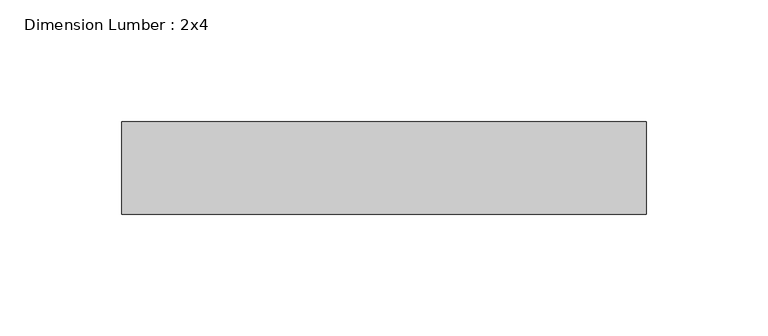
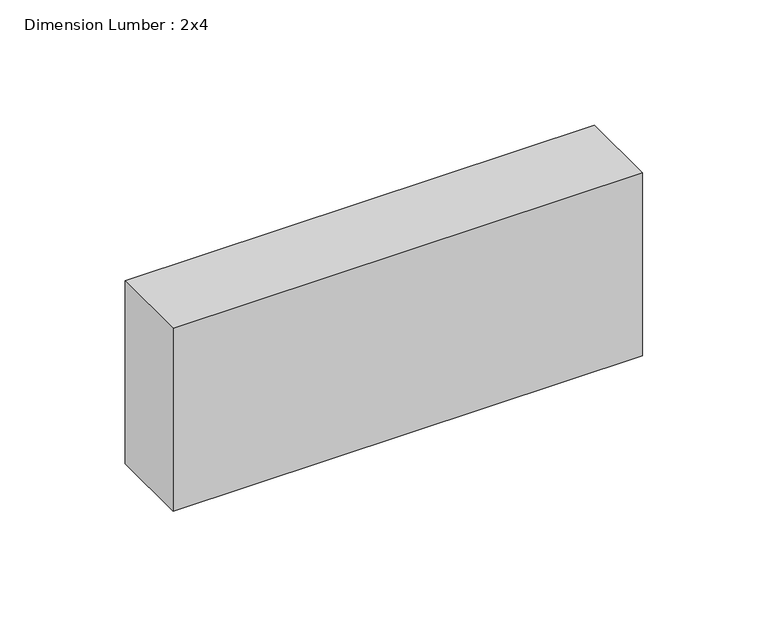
"""IFC4 building model written with IfcOpenShell, lengths in millimetres: beam geometry, Dimension Lumber : 2x4."""

from ifc_helpers import new_model, si_unit, frame, origin, place, context, project, spatial, polyline, outline, extrude, source, transform, mapped, element, save


def dimension_lumber_2x4_be2afab2(model_context):
    return source(origin(), model_context, "Body", "SweptSolid", [
        extrude(outline(polyline([(107.95, 19.05), (107.95, -19.05), (-107.95, -19.05), (-107.95, 19.05), (107.95, 19.05)])), frame((0.0, 0.0, -44.45), z_axis=(0.0, 0.0, 1.0), x_axis=(1.0, 0.0, 0.0)), (0.0, 0.0, 1.0), 88.9),
    ])


if __name__ == "__main__":
    model = new_model("IFC4")
    model_context = context("Model", 3, world=origin())
    ifc_project = project(units=[si_unit("LENGTHUNIT", "METRE", prefix="MILLI")], contexts=[model_context])
    site = spatial("IfcSite", under=ifc_project)
    building = spatial("IfcBuilding", under=site)
    placement = place(None, origin())
    dimension_lumber_2x4_shape = dimension_lumber_2x4_be2afab2(model_context)
    element("IfcBeam", 1, ObjectType="Dimension Lumber : 2x4", at=placement, inside=building, context=model_context, shape_type="MappedRepresentation", body=[
        mapped(dimension_lumber_2x4_shape, transform((0.0, 0.0, 0.0), x_axis=(1.0, 0.0, 0.0), y_axis=(0.0, 1.0, 0.0), z_axis=(0.0, 0.0, 1.0))),
    ])
    save(model, "model.ifc")
